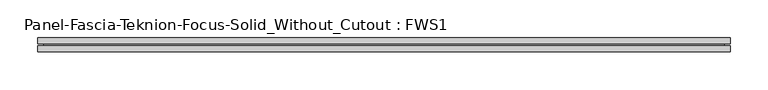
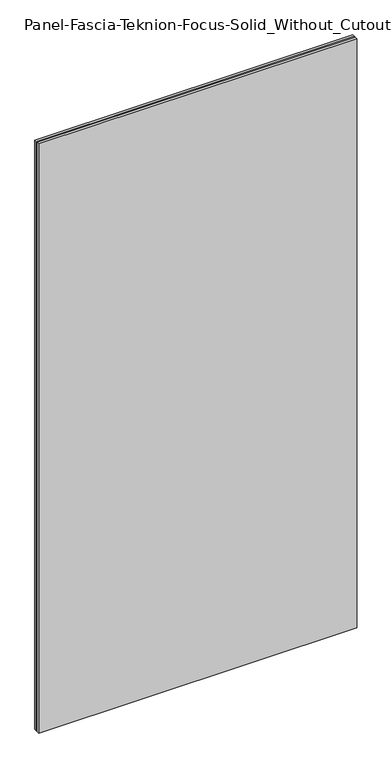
"""IFC4 building model written with IfcOpenShell, lengths in millimetres: proxy geometry, Panel-Fascia-Teknion-Focus-Solid_Without_Cutout : FWS1."""

import ifcopenshell
import ifcopenshell.guid

model = None  # the IFC model being written
_history = None  # IfcOwnerHistory: only IFC2X3 demands one
_inside = {}  # id of a spatial element -> (the spatial element, [elements in it])
_under = {}  # id of a project, library or spatial element -> (it, [spatial elements below it])
_declared = {}  # id of a project -> (the project, [libraries it declares])
_typed = {}  # id of a type object -> (the type object, [elements of that type])
_made_of = {}  # id of a material, layer set ... -> (it, [elements and type objects made of it])


def new_model(schema):
    """Start an empty IFC model of exactly this schema.

    Asked for "IFC4X3", IfcOpenShell would pick the latest addendum, in which some entities
    have other attributes; the version numbers below select the first issue.
    IFC2X3 requires an IfcOwnerHistory on every rooted entity: one is made here for all.
    """
    global model, _history
    if schema == "IFC4X3":
        model = ifcopenshell.file(schema_version=(4, 3, 0, 0))
    else:
        model = ifcopenshell.file(schema=schema)
    _inside.clear()
    _under.clear()
    _declared.clear()
    _typed.clear()
    _made_of.clear()
    _history = None
    if model.schema == "IFC2X3":
        org = make("IfcOrganization", Name="unknown")
        user = make(
            "IfcPersonAndOrganization",
            ThePerson=make("IfcPerson", FamilyName="unknown"),
            TheOrganization=org,
        )
        app = make(
            "IfcApplication",
            ApplicationDeveloper=org,
            Version="unknown",
            ApplicationFullName="unknown",
            ApplicationIdentifier="unknown",
        )
        _history = make(
            "IfcOwnerHistory",
            OwningUser=user,
            OwningApplication=app,
            ChangeAction="ADDED",
            CreationDate=0,
        )
    return model


def make(cls, **values):
    """One entity of the class cls with the attributes given. An attribute that is None is left unset."""
    return model.create_entity(
        cls, **{name: value for name, value in values.items() if value is not None}
    )


def rooted(cls, **values):
    """An entity with a GlobalId (a new one), such as an element, a storey or a relation."""
    return make(cls, GlobalId=ifcopenshell.guid.new(), OwnerHistory=_history, **values)


def si_unit(unit_type, name, prefix=None):
    """IfcSIUnit, for example si_unit("LENGTHUNIT", "METRE", prefix="MILLI")."""
    return make("IfcSIUnit", UnitType=unit_type, Prefix=prefix, Name=name)


def assignment(units):
    """IfcUnitAssignment: the units of a project."""
    return None if units is None else make("IfcUnitAssignment", Units=units)


def point(xyz):
    """IfcCartesianPoint."""
    return None if xyz is None else make("IfcCartesianPoint", Coordinates=xyz)


def direction(xyz):
    """IfcDirection."""
    return None if xyz is None else make("IfcDirection", DirectionRatios=xyz)


def frame(location, z_axis=None, x_axis=None):
    """IfcAxis2Placement3D, a coordinate frame: its origin and axes. An axis left out is left unset."""
    return make(
        "IfcAxis2Placement3D",
        Location=point(location),
        Axis=direction(z_axis),
        RefDirection=direction(x_axis),
    )


def origin():
    """The frame at (0, 0, 0) with its axes left unset."""
    return frame((0.0, 0.0, 0.0))


def place(relative_to, where):
    """IfcLocalPlacement: puts the frame where relative to a parent placement (None: the world)."""
    return make(
        "IfcLocalPlacement", PlacementRelTo=relative_to, RelativePlacement=where
    )


def context(
    kind, dimensions, precision=None, world=None, true_north=None, identifier=None
):
    """IfcGeometricRepresentationContext, for example the 3D "Model" context."""
    return make(
        "IfcGeometricRepresentationContext",
        ContextIdentifier=identifier,
        ContextType=kind,
        CoordinateSpaceDimension=dimensions,
        Precision=precision,
        WorldCoordinateSystem=world,
        TrueNorth=true_north,
    )


def project(units=None, contexts=None):
    """IfcProject with its units and contexts."""
    return rooted(
        "IfcProject",
        Name="project",
        RepresentationContexts=contexts,
        UnitsInContext=assignment(units),
    )


def spatial(cls, under=None, at=None, **own):
    """A site, building, storey or space (cls), placed at a placement, below another one or the project."""
    s = rooted(cls, ObjectPlacement=at, **own)
    if under is not None:
        _under.setdefault(under.id(), (under, []))[1].append(s)
    return s


def faces_of(points, faces, orient=None, outer=None):
    """IfcFace entities. A face is a list of loops; a loop is a list of indices into points, from 0.

    orient and outer hold one flag for each loop. By default every Orientation is true, the
    first loop of a face is its IfcFaceOuterBound and the others are IfcFaceBound.
    """
    made = []
    for i, loops in enumerate(faces):
        bounds = []
        for j, loop in enumerate(loops):
            is_outer = j == 0 if outer is None else outer[i][j]
            bounds.append(
                make(
                    "IfcFaceOuterBound" if is_outer else "IfcFaceBound",
                    Bound=make("IfcPolyLoop", Polygon=[points[k] for k in loop]),
                    Orientation=True if orient is None else orient[i][j],
                )
            )
        made.append(make("IfcFace", Bounds=bounds))
    return made


def faceted_brep(points, faces, orient=None, outer=None, voids=None):
    """IfcFacetedBrep: a solid bounded by flat faces; with voids (closed shells), ...WithVoids."""
    shared = [point(p) for p in points]
    hull = make("IfcClosedShell", CfsFaces=faces_of(shared, faces, orient, outer))
    if voids is None:
        return make("IfcFacetedBrep", Outer=hull)
    return make(
        "IfcFacetedBrepWithVoids",
        Outer=hull,
        Voids=[
            make(cls, CfsFaces=faces_of(shared, fs, o, b)) for cls, fs, o, b in voids
        ],
    )


def shape(context_of_items, identifier, shape_type, items):
    """IfcShapeRepresentation: the items that make up one representation, for example the "Body"."""
    return make(
        "IfcShapeRepresentation",
        ContextOfItems=context_of_items,
        RepresentationIdentifier=identifier,
        RepresentationType=shape_type,
        Items=items,
    )


def source(mapping_origin, context_of_items, identifier, shape_type, items):
    """IfcRepresentationMap: a shape defined once, which mapped items show again and again."""
    return make(
        "IfcRepresentationMap",
        MappingOrigin=mapping_origin,
        MappedRepresentation=shape(context_of_items, identifier, shape_type, items),
    )


def transform(
    local_origin,
    x_axis=None,
    y_axis=None,
    z_axis=None,
    scale=None,
    scale2=None,
    scale3=None,
    uniform=True,
):
    """IfcCartesianTransformationOperator3D, or its non-uniform kind. x_axis, y_axis, z_axis: its Axis1, 2, 3."""
    if uniform:
        return make(
            "IfcCartesianTransformationOperator3D",
            Axis1=direction(x_axis),
            Axis2=direction(y_axis),
            LocalOrigin=point(local_origin),
            Scale=scale,
            Axis3=direction(z_axis),
        )
    return make(
        "IfcCartesianTransformationOperator3DnonUniform",
        Axis1=direction(x_axis),
        Axis2=direction(y_axis),
        LocalOrigin=point(local_origin),
        Scale=scale,
        Axis3=direction(z_axis),
        Scale2=scale2,
        Scale3=scale3,
    )


def mapped(mapping_source, mapping_target):
    """IfcMappedItem: shows the shape of a source again, moved by a transform."""
    return make(
        "IfcMappedItem", MappingSource=mapping_source, MappingTarget=mapping_target
    )


def made_of(thing, what):
    """Note that an element or type object is made of a material, layer set ...; save() writes the relation."""
    if what is not None:
        _made_of.setdefault(what.id(), (what, []))[1].append(thing)
    return thing


def element(
    cls,
    number,
    at=None,
    inside=None,
    cuts=None,
    type_object=None,
    material=None,
    context=None,
    identifier="Body",
    shape_type=None,
    held_by="IfcProductDefinitionShape",
    body=None,
    shapes=None,
    **own,
):
    """One element of the class cls, such as IfcWall. Its Tag is "e" and its number.

    at: its placement. inside: the storey or other place that contains it. cuts: it is an
    opening in that element (IfcRelVoidsElement). A single representation is given by context,
    identifier, shape_type and body (its items); several are given by shapes. held_by: the class
    of the entity that holds the representations. save() writes the other relations.
    """
    e = rooted(cls, Tag="e%d" % number, ObjectPlacement=at, **own)
    if body is not None:
        shapes = [shape(context, identifier, shape_type, body)]
    if shapes is not None:
        e.Representation = make(held_by, Representations=shapes)
    if inside is not None:
        _inside.setdefault(inside.id(), (inside, []))[1].append(e)
    if cuts is not None:
        rooted(
            "IfcRelVoidsElement", RelatingBuildingElement=cuts, RelatedOpeningElement=e
        )
    if type_object is not None:
        _typed.setdefault(type_object.id(), (type_object, []))[1].append(e)
    return made_of(e, material)


def aggregate(whole, parts):
    """IfcRelAggregates: a whole, such as a stair, and the parts it consists of."""
    return rooted("IfcRelAggregates", RelatingObject=whole, RelatedObjects=parts)


def save(model, path):
    """Write the relations noted so far, then the file.

    IfcRelAggregates (storeys below a building ...), IfcRelContainedInSpatialStructure (elements
    in a storey), IfcRelDefinesByType, IfcRelAssociatesMaterial and IfcRelDeclares: one each for
    every whole, place, type object, material and project.
    """
    for whole, parts in _under.values():
        aggregate(whole, parts)
    for where, things in _inside.values():
        rooted(
            "IfcRelContainedInSpatialStructure",
            RelatedElements=things,
            RelatingStructure=where,
        )
    for kind, things in _typed.values():
        rooted("IfcRelDefinesByType", RelatedObjects=things, RelatingType=kind)
    for what, things in _made_of.values():
        rooted("IfcRelAssociatesMaterial", RelatedObjects=things, RelatingMaterial=what)
    for by, libraries in _declared.values():
        rooted("IfcRelDeclares", RelatingContext=by, RelatedDefinitions=libraries)
    model.write(path)


def panel_fascia_teknion_focus_solid_without_cutout_fws1_06f19bdd(model_context):
    return source(origin(), model_context, "Body", "Brep", [
        faceted_brep([(457.2, 9.25, 1790.9336003), (-457.2, 9.25, 1790.9336003), (-457.2, 1.5, 1790.9336003), (457.2, 1.5, 1790.9336003), (457.2, -1.5, 1790.9336003), (-457.2, -1.5, 1790.9336003), (-457.2, -9.25, 1790.9336003), (457.2, -9.25, 1790.9336003), (457.2, 9.25, 0.0), (457.2, 1.5, 0.0), (-457.2, 1.5, 0.0), (-457.2, 9.25, 0.0), (-457.2, -1.5, 0.0), (457.2, -1.5, 0.0), (457.2, -9.25, 0.0), (-457.2, -9.25, 0.0), (-449.2, 1.5, 1782.9336003), (449.2, 1.5, 1782.9336003), (449.2, 1.5, 8.0), (-449.2, 1.5, 8.0), (-449.2, -1.5, 8.0), (-449.2, -1.5, 1782.9336003), (449.2, -1.5, 8.0), (449.2, -1.5, 1782.9336003)], [[[0, 1, 2, 3]], [[4, 5, 6, 7]], [[8, 9, 10, 11]], [[12, 13, 14, 15]], [[1, 0, 8, 11]], [[6, 5, 12, 15]], [[7, 6, 15, 14]], [[13, 4, 7, 14]], [[10, 2, 1, 11]], [[3, 2, 10, 9], [16, 17, 18, 19]], [[16, 19, 20, 21]], [[5, 4, 13, 12], [20, 22, 23, 21]], [[23, 22, 18, 17]], [[0, 3, 9, 8]], [[21, 23, 17, 16]], [[22, 20, 19, 18]]]),
    ])


if __name__ == "__main__":
    model = new_model("IFC4")
    model_context = context("Model", 3, world=origin())
    ifc_project = project(units=[si_unit("LENGTHUNIT", "METRE", prefix="MILLI")], contexts=[model_context])
    site = spatial("IfcSite", under=ifc_project)
    building = spatial("IfcBuilding", under=site)
    placement = place(None, origin())
    panel_fascia_teknion_focus_solid_without_cutout_fws1_shape = panel_fascia_teknion_focus_solid_without_cutout_fws1_06f19bdd(model_context)
    element("IfcBuildingElementProxy", 1, Name="Panel-Fascia-Teknion-Focus-Solid_Without_Cutout : FWS1", ObjectType="Panel-Fascia-Teknion-Focus-Solid_Without_Cutout : FWS1", at=placement, inside=building, context=model_context, shape_type="MappedRepresentation", body=[
        mapped(panel_fascia_teknion_focus_solid_without_cutout_fws1_shape, transform((0.0, 0.0, 0.0), x_axis=(1.0, 0.0, 0.0), y_axis=(0.0, 1.0, 0.0), z_axis=(0.0, 0.0, 1.0))),
    ])
    save(model, "model.ifc")
